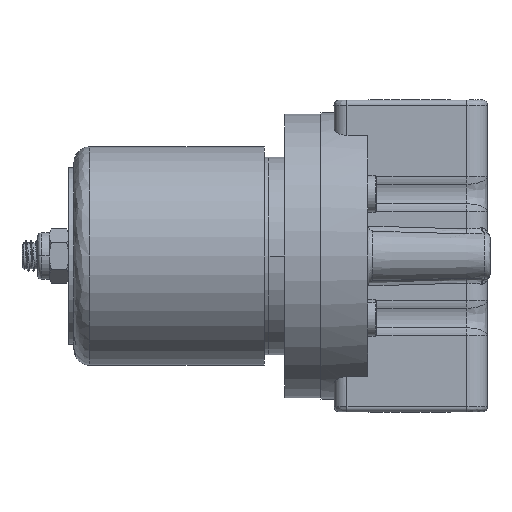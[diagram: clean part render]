
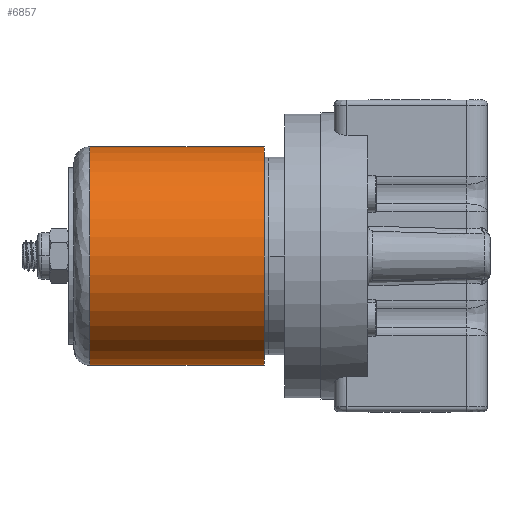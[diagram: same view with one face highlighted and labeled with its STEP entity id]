
A CAD part, left-side view. The second image highlights one B-rep face of the part: STEP entity #6857.
In plain terms, the highlighted cylindrical face has radius 21 mm (diameter 42 mm), a partial arc.
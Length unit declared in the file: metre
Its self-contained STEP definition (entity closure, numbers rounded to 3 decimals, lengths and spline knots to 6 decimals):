
#31 = ORIENTED_EDGE ( 'NONE', *, *, #11398, .T. ) ;
#308 = LINE ( 'NONE', #6994, #3237 ) ;
#1293 = ORIENTED_EDGE ( 'NONE', *, *, #1878, .F. ) ;
#1878 = EDGE_CURVE ( 'NONE', #6246, #14165, #13024, .T. ) ;
#1904 = VERTEX_POINT ( 'NONE', #15607 ) ;
#2128 = CYLINDRICAL_SURFACE ( 'NONE', #6411, 0.021 ) ;
#2928 = FACE_OUTER_BOUND ( 'NONE', #13960, .T. ) ;
#3237 = VECTOR ( 'NONE', #13448, 1. ) ;
#3692 = CARTESIAN_POINT ( 'NONE',  ( 0., 0.02815, 0.021 ) ) ;
#4787 = DIRECTION ( 'NONE',  ( 0., 1., 0. ) ) ;
#6209 = DIRECTION ( 'NONE',  ( 0., 0., -1. ) ) ;
#6246 = VERTEX_POINT ( 'NONE', #11841 ) ;
#6263 = EDGE_CURVE ( 'NONE', #14165, #1904, #16027, .T. ) ;
#6411 = AXIS2_PLACEMENT_3D ( 'NONE', #7435, #12780, #6209 ) ;
#6857 = ADVANCED_FACE ( 'NONE', ( #2928 ), #2128, .T. ) ;
#6994 = CARTESIAN_POINT ( 'NONE',  ( 0., 0.06175, -0.021 ) ) ;
#7435 = CARTESIAN_POINT ( 'NONE',  ( 0., 0.06175, 0. ) ) ;
#7924 = AXIS2_PLACEMENT_3D ( 'NONE', #13910, #13946, #13967 ) ;
#8903 = EDGE_CURVE ( 'NONE', #8958, #6246, #14414, .T. ) ;
#8958 = VERTEX_POINT ( 'NONE', #16440 ) ;
#11398 = EDGE_CURVE ( 'NONE', #8958, #1904, #308, .T. ) ;
#11440 = AXIS2_PLACEMENT_3D ( 'NONE', #12611, #4787, #13906 ) ;
#11841 = CARTESIAN_POINT ( 'NONE',  ( 0., 0.06175, 0.021 ) ) ;
#12611 = CARTESIAN_POINT ( 'NONE',  ( 0., 0.06175, 0. ) ) ;
#12780 = DIRECTION ( 'NONE',  ( 0., -1., 0. ) ) ;
#13024 = LINE ( 'NONE', #15473, #15618 ) ;
#13448 = DIRECTION ( 'NONE',  ( 0., -1., 0. ) ) ;
#13906 = DIRECTION ( 'NONE',  ( 0., 0., -1. ) ) ;
#13910 = CARTESIAN_POINT ( 'NONE',  ( 0., 0.02815, 0. ) ) ;
#13946 = DIRECTION ( 'NONE',  ( 0., -1., 0. ) ) ;
#13960 = EDGE_LOOP ( 'NONE', ( #1293, #15155, #31, #15654 ) ) ;
#13967 = DIRECTION ( 'NONE',  ( 0., 0., -1. ) ) ;
#14165 = VERTEX_POINT ( 'NONE', #3692 ) ;
#14414 = CIRCLE ( 'NONE', #11440, 0.021 ) ;
#15155 = ORIENTED_EDGE ( 'NONE', *, *, #8903, .F. ) ;
#15473 = CARTESIAN_POINT ( 'NONE',  ( 0., 0.06175, 0.021 ) ) ;
#15511 = DIRECTION ( 'NONE',  ( 0., -1., 0. ) ) ;
#15607 = CARTESIAN_POINT ( 'NONE',  ( 0., 0.02815, -0.021 ) ) ;
#15618 = VECTOR ( 'NONE', #15511, 1. ) ;
#15654 = ORIENTED_EDGE ( 'NONE', *, *, #6263, .F. ) ;
#16027 = CIRCLE ( 'NONE', #7924, 0.021 ) ;
#16440 = CARTESIAN_POINT ( 'NONE',  ( 0., 0.06175, -0.021 ) ) ;
